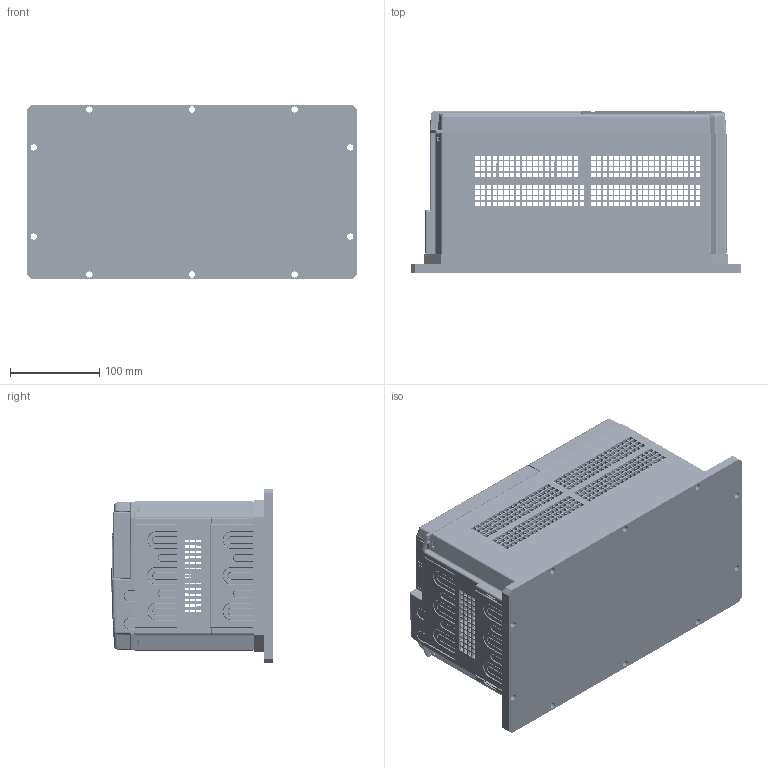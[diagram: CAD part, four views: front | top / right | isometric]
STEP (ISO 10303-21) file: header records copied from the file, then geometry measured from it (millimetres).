
FILE_DESCRIPTION (( 'STEP AP203' ), '1' );
FILE_NAME ('G0.F5.T00-FLAT KEB-COMBIVERT.STEP', '2010-08-06T09:36:19', ( 'KEB' ), ( 'Karl E. Brinkmann GmbH' ), 'SwSTEP 2.0', 'SolidWorks 2007', '' );
FILE_SCHEMA (( 'CONFIG_CONTROL_DESIGN' ));
Products named in the file (26): 10003354_000_Standard; 10003057_000_Standard; 10001016_000_Standard; 10000395_000_Standard; 10001513_000_Standard; 10003034_000_Standard; 10003351_000_Standard; 10001019_000_Standard; 10001018_000_Standard; G0.F5.T00-FLAT KEB-COMBIVERT; 10003496_000_Standard; 10003485_000_Standard; 10001531_000_Standard; 10000392_000_00.F5.060-1000 OPERATOR ; 10003328_000_Standard; 10003329_000_00.F5.T72-0009 OBERTEIL; 10002593_000_Standard; 10002455_000_Standard; 10000954_000_Standard; 10000955_000_Standard; 10003345_000_00.F5.T75-0009 ABDECKUNG; 10000447_000_Standard; 10003480_000_Standard; 10003352_000_Standard; 10000448_000_Standard; 10003372_000_Deckel G0.F5-H0.F5
Assembly tree (39 placements, depth 4):
  G0.F5.T00-FLAT KEB-COMBIVERT
    10003485_000_Standard
    10000392_000_00.F5.060-1000 OPERATOR 
      10003034_000_Standard
      10003328_000_Standard
      10001513_000_Standard  x4
      10000395_000_Standard
        10003354_000_Standard
        10002593_000_Standard
        10000955_000_Standard  x3
        10002455_000_Standard  x5
        10000954_000_Standard  x3
      10003345_000_00.F5.T75-0009 ABDECKUNG  x2
      10003329_000_00.F5.T72-0009 OBERTEIL
    10003496_000_Standard
    10003057_000_Standard  x2
    10000447_000_Standard
      10003352_000_Standard
      10000448_000_Standard
        10003372_000_Deckel G0.F5-H0.F5
        10001018_000_Standard
        10001019_000_Standard
        10003351_000_Standard
      10003480_000_Standard
    10001016_000_Standard
    10001531_000_Standard  x2
Bounding box: 370 x 181.25 x 196 mm (x, y, z)
Volume: 2074152.5 mm3; surface area: 831604.2 mm2
Topology: 118 solids, 118 shells, 17239 faces, 49063 edges, 32402 vertices
Faces by surface type: plane 11103, bspline 4401, cylinder 1054, cone 485, torus 141, sphere 55
Entity records: 732975 total; most frequent: CARTESIAN_POINT 338015, ORIENTED_EDGE 91110, DIRECTION 63029, EDGE_CURVE 45555, LINE 34543, VECTOR 34543, VERTEX_POINT 30160, EDGE_LOOP 18115
